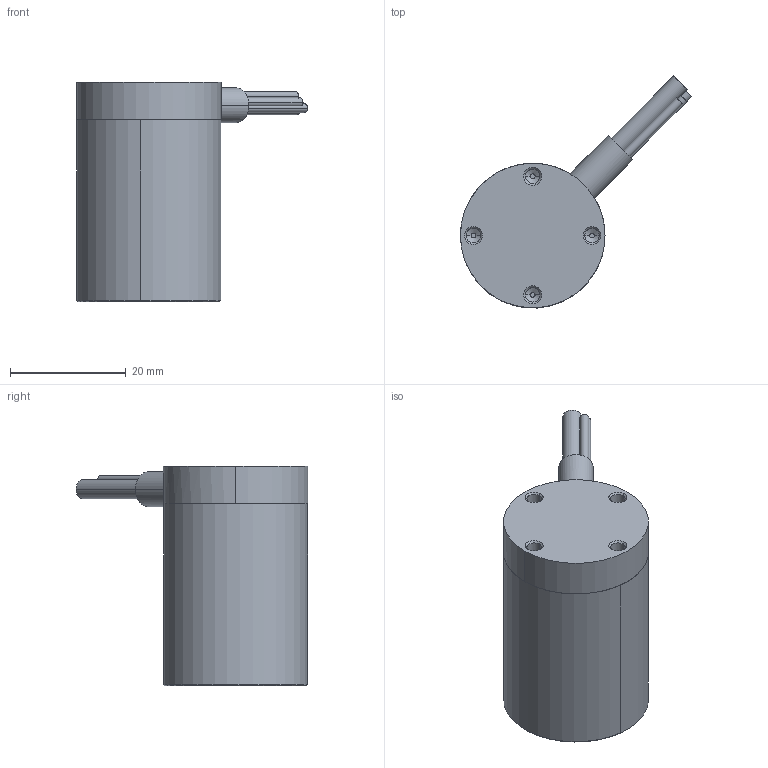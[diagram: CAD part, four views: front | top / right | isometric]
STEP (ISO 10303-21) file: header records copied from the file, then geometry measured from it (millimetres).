
FILE_DESCRIPTION (( 'STEP AP203' ), '1' );
FILE_NAME ('24044-1×°ÅäÌå2024.04.24.STEP', '2024-04-24T07:31:07', ( '' ), ( '' ), 'SwSTEP 2.0', 'SolidWorks 2016', '' );
FILE_SCHEMA (( 'CONFIG_CONTROL_DESIGN' ));
Length unit declared in the file: millimetre
Products named in the file (8): P33H-01R1(P33H菁釱); 宇航6芯线里单股线; 24044-1蚾饜极2024.04.24; 迻瑤等郋盄; 奻裔蚾饜极; P33H-03R1( P33H奻裔A); 誘杶睿盄蚾饜极; 誘杶耜堤盄YF
Assembly tree (9 placements, depth 3):
  24044-1蚾饜极2024.04.24
    P33H-01R1(P33H菁釱)
    奻裔蚾饜极
      P33H-03R1( P33H奻裔A)
    誘杶睿盄蚾饜极
      誘杶耜堤盄YF
      迻瑤等郋盄  x3
      宇航6芯线里单股线
Bounding box: 39.97 x 40.1 x 38 mm (x, y, z)
Volume: 18850.8 mm3; surface area: 7381.4 mm2
Topology: 14 solids, 14 shells, 180 faces, 385 edges, 242 vertices
Faces by surface type: cylinder 81, plane 57, torus 21, cone 20, bspline 1
Entity records: 5195 total; most frequent: CARTESIAN_POINT 964, DIRECTION 794, ORIENTED_EDGE 634, AXIS2_PLACEMENT_3D 340, EDGE_CURVE 317, VERTEX_POINT 198, CIRCLE 181, EDGE_LOOP 161
